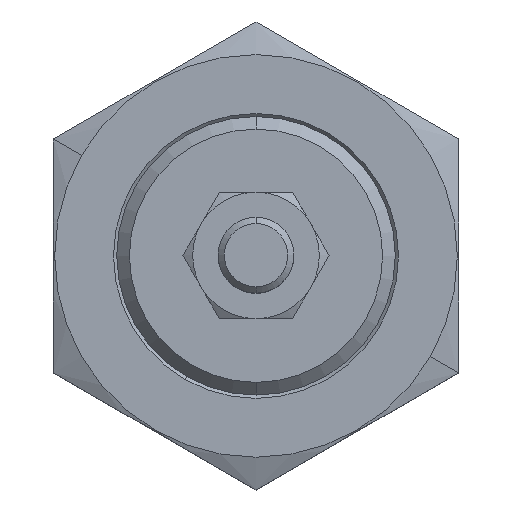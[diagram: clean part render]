
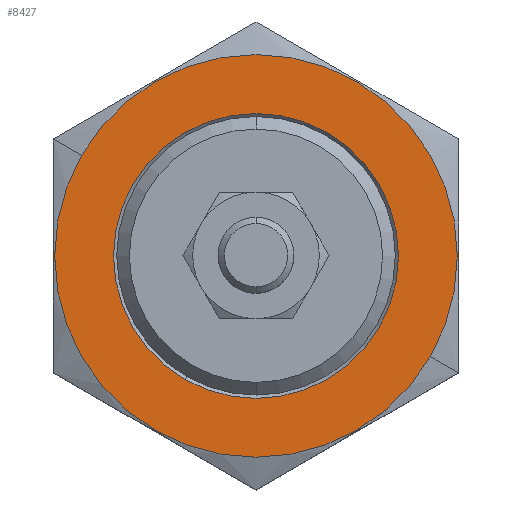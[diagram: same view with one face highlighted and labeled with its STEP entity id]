
A CAD part, top view. The second image highlights one B-rep face of the part: STEP entity #8427.
In plain terms, the highlighted planar face has unit normal (0, 0, 1).
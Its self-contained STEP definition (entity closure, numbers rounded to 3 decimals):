
#535 = CIRCLE ( 'NONE', #2548, 11.25 ) ;
#717 = FACE_OUTER_BOUND ( 'NONE', #15590, .T. ) ;
#739 = ORIENTED_EDGE ( 'NONE', *, *, #6361, .T. ) ;
#1305 = CARTESIAN_POINT ( 'NONE',  ( 13.77, -7.95, 11. ) ) ;
#2032 = AXIS2_PLACEMENT_3D ( 'NONE', #11405, #2842, #11561 ) ;
#2076 = PLANE ( 'NONE',  #19771 ) ;
#2543 = EDGE_CURVE ( 'NONE', #5264, #7277, #13335, .T. ) ;
#2548 = AXIS2_PLACEMENT_3D ( 'NONE', #12674, #16264, #7506 ) ;
#2842 = DIRECTION ( 'NONE',  ( 0., 0., -1. ) ) ;
#3437 = EDGE_LOOP ( 'NONE', ( #739, #7049 ) ) ;
#4195 = VERTEX_POINT ( 'NONE', #21288 ) ;
#4877 = DIRECTION ( 'NONE',  ( 0., 0., -1. ) ) ;
#5264 = VERTEX_POINT ( 'NONE', #22453 ) ;
#5346 = CARTESIAN_POINT ( 'NONE',  ( 0., 0., 11. ) ) ;
#5467 = EDGE_CURVE ( 'NONE', #4195, #11473, #12588, .T. ) ;
#5614 = CARTESIAN_POINT ( 'NONE',  ( 0., 0., 11. ) ) ;
#6361 = EDGE_CURVE ( 'NONE', #11473, #4195, #535, .T. ) ;
#7049 = ORIENTED_EDGE ( 'NONE', *, *, #5467, .T. ) ;
#7277 = VERTEX_POINT ( 'NONE', #1305 ) ;
#7303 = DIRECTION ( 'NONE',  ( -0.5, -0.866, 0. ) ) ;
#7506 = DIRECTION ( 'NONE',  ( -0.5, -0.866, 0. ) ) ;
#8176 = DIRECTION ( 'NONE',  ( -0.866, 0.5, 0. ) ) ;
#8427 = ADVANCED_FACE ( 'NONE', ( #20839, #717 ), #2076, .F. ) ;
#9095 = DIRECTION ( 'NONE',  ( 0., 0., -1. ) ) ;
#9965 = CARTESIAN_POINT ( 'NONE',  ( 0., 0., 11. ) ) ;
#11242 = AXIS2_PLACEMENT_3D ( 'NONE', #9965, #4877, #8176 ) ;
#11405 = CARTESIAN_POINT ( 'NONE',  ( 0., 0., 11. ) ) ;
#11473 = VERTEX_POINT ( 'NONE', #16903 ) ;
#11561 = DIRECTION ( 'NONE',  ( -0.866, 0.5, 0. ) ) ;
#12223 = DIRECTION ( 'NONE',  ( 0.5, 0.866, 0. ) ) ;
#12588 = CIRCLE ( 'NONE', #21767, 11.25 ) ;
#12674 = CARTESIAN_POINT ( 'NONE',  ( 0., 0., 11. ) ) ;
#13147 = ORIENTED_EDGE ( 'NONE', *, *, #2543, .F. ) ;
#13335 = CIRCLE ( 'NONE', #2032, 15.9 ) ;
#14124 = DIRECTION ( 'NONE',  ( 0., 0., -1. ) ) ;
#15590 = EDGE_LOOP ( 'NONE', ( #13147, #18928 ) ) ;
#16264 = DIRECTION ( 'NONE',  ( 0., 0., -1. ) ) ;
#16903 = CARTESIAN_POINT ( 'NONE',  ( -5.625, -9.743, 11. ) ) ;
#18928 = ORIENTED_EDGE ( 'NONE', *, *, #19697, .F. ) ;
#19697 = EDGE_CURVE ( 'NONE', #7277, #5264, #20398, .T. ) ;
#19771 = AXIS2_PLACEMENT_3D ( 'NONE', #5346, #14124, #12223 ) ;
#20398 = CIRCLE ( 'NONE', #11242, 15.9 ) ;
#20839 = FACE_BOUND ( 'NONE', #3437, .T. ) ;
#21288 = CARTESIAN_POINT ( 'NONE',  ( 5.625, 9.743, 11. ) ) ;
#21767 = AXIS2_PLACEMENT_3D ( 'NONE', #5614, #9095, #7303 ) ;
#22453 = CARTESIAN_POINT ( 'NONE',  ( -13.77, 7.95, 11. ) ) ;
